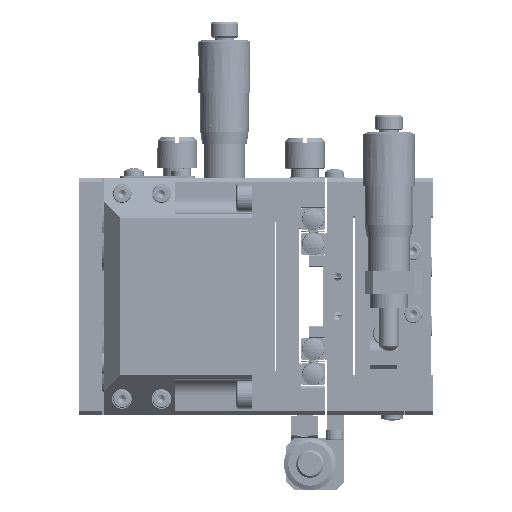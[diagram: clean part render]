
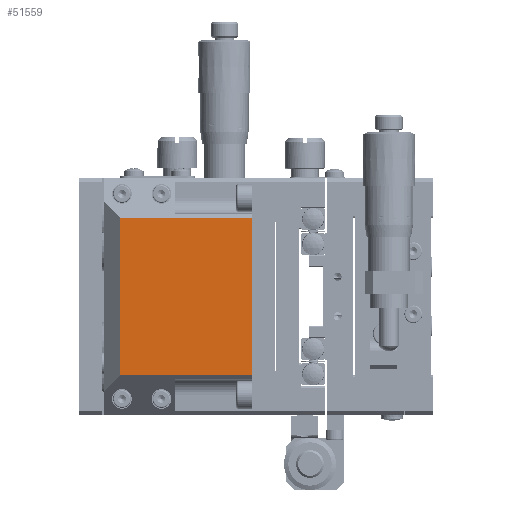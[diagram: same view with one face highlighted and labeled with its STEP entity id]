
A CAD part, left-side view. The second image highlights one B-rep face of the part: STEP entity #51559.
In plain terms, the highlighted planar face has unit normal (-1, 0, 0).
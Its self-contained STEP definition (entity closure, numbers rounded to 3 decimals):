
#184 = CARTESIAN_POINT ( 'NONE',  ( 1.569, 114.634, 32.107 ) ) ;
#5265 = VERTEX_POINT ( 'NONE', #107960 ) ;
#17364 = CARTESIAN_POINT ( 'NONE',  ( 1.569, 148.134, 72.107 ) ) ;
#18332 = CARTESIAN_POINT ( 'NONE',  ( 1.569, 148.134, 52.107 ) ) ;
#25583 = VERTEX_POINT ( 'NONE', #17364 ) ;
#28644 = ORIENTED_EDGE ( 'NONE', *, *, #82199, .T. ) ;
#30486 = LINE ( 'NONE', #68573, #118906 ) ;
#31706 = DIRECTION ( 'NONE',  ( -1., 0., 0. ) ) ;
#37718 = VERTEX_POINT ( 'NONE', #184 ) ;
#40236 = LINE ( 'NONE', #133495, #56763 ) ;
#40734 = EDGE_CURVE ( 'NONE', #37718, #5265, #40236, .T. ) ;
#49466 = EDGE_LOOP ( 'NONE', ( #90126, #105542, #136054, #28644 ) ) ;
#51559 = ADVANCED_FACE ( 'NONE', ( #202195 ), #70987, .T. ) ;
#52572 = DIRECTION ( 'NONE',  ( 0., -1., 0. ) ) ;
#56763 = VECTOR ( 'NONE', #175109, 1000. ) ;
#68573 = CARTESIAN_POINT ( 'NONE',  ( 1.569, 133.384, 32.107 ) ) ;
#70937 = AXIS2_PLACEMENT_3D ( 'NONE', #100812, #31706, #52572 ) ;
#70987 = PLANE ( 'NONE',  #70937 ) ;
#82199 = EDGE_CURVE ( 'NONE', #87181, #37718, #30486, .T. ) ;
#87181 = VERTEX_POINT ( 'NONE', #155761 ) ;
#89370 = DIRECTION ( 'NONE',  ( 0., -1., 0. ) ) ;
#90126 = ORIENTED_EDGE ( 'NONE', *, *, #40734, .T. ) ;
#91515 = DIRECTION ( 'NONE',  ( 0., 1., 0. ) ) ;
#100812 = CARTESIAN_POINT ( 'NONE',  ( 1.569, 133.384, 52.107 ) ) ;
#105542 = ORIENTED_EDGE ( 'NONE', *, *, #112224, .T. ) ;
#107960 = CARTESIAN_POINT ( 'NONE',  ( 1.569, 114.634, 72.107 ) ) ;
#109937 = CARTESIAN_POINT ( 'NONE',  ( 1.569, 133.384, 72.107 ) ) ;
#110580 = VECTOR ( 'NONE', #91515, 1000. ) ;
#112224 = EDGE_CURVE ( 'NONE', #5265, #25583, #221516, .T. ) ;
#118906 = VECTOR ( 'NONE', #89370, 1000. ) ;
#133495 = CARTESIAN_POINT ( 'NONE',  ( 1.569, 114.634, 22.107 ) ) ;
#136054 = ORIENTED_EDGE ( 'NONE', *, *, #158680, .T. ) ;
#153166 = LINE ( 'NONE', #18332, #219429 ) ;
#155761 = CARTESIAN_POINT ( 'NONE',  ( 1.569, 148.134, 32.107 ) ) ;
#158680 = EDGE_CURVE ( 'NONE', #25583, #87181, #153166, .T. ) ;
#175109 = DIRECTION ( 'NONE',  ( 0., 0., 1. ) ) ;
#202195 = FACE_OUTER_BOUND ( 'NONE', #49466, .T. ) ;
#207151 = DIRECTION ( 'NONE',  ( 0., 0., -1. ) ) ;
#219429 = VECTOR ( 'NONE', #207151, 1000. ) ;
#221516 = LINE ( 'NONE', #109937, #110580 ) ;
